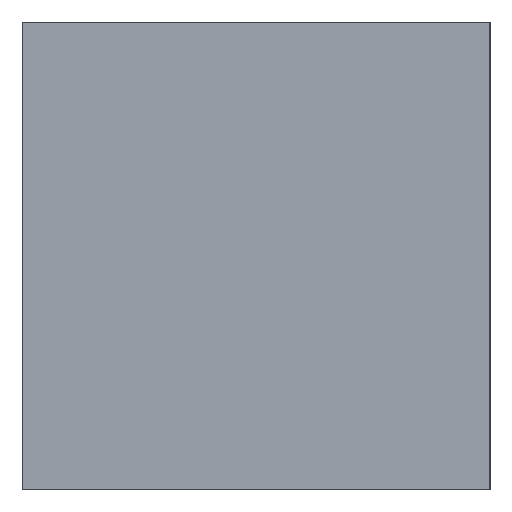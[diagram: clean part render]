
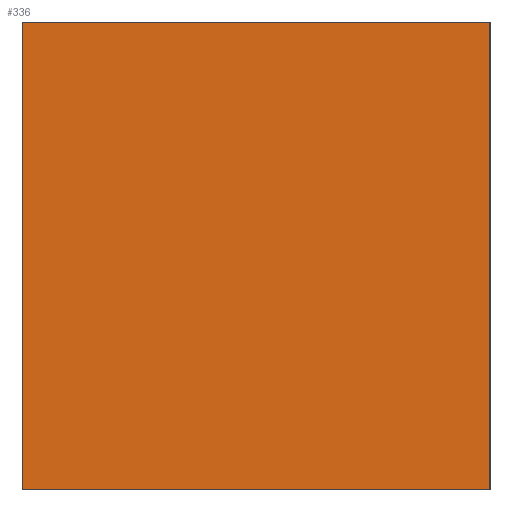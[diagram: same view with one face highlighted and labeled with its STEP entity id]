
A CAD part, front view. The second image highlights one B-rep face of the part: STEP entity #336.
In plain terms, the highlighted planar face has unit normal (0, -1, 0).
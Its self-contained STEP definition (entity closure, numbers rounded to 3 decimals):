
#217 = VERTEX_POINT('',#218);
#218 = CARTESIAN_POINT('',(-0.4,-0.8,0.8));
#235 = VERTEX_POINT('',#236);
#236 = CARTESIAN_POINT('',(-0.4,-0.8,0.));
#242 = EDGE_CURVE('',#217,#235,#243,.T.);
#243 = LINE('',#244,#245);
#244 = CARTESIAN_POINT('',(-0.4,-0.8,0.8));
#245 = VECTOR('',#246,1.);
#246 = DIRECTION('',(0.,0.,-1.));
#266 = VERTEX_POINT('',#267);
#267 = CARTESIAN_POINT('',(0.4,-0.8,0.));
#273 = EDGE_CURVE('',#235,#266,#274,.T.);
#274 = LINE('',#275,#276);
#275 = CARTESIAN_POINT('',(-0.4,-0.8,0.));
#276 = VECTOR('',#277,1.);
#277 = DIRECTION('',(1.,0.,0.));
#297 = VERTEX_POINT('',#298);
#298 = CARTESIAN_POINT('',(0.4,-0.8,0.8));
#304 = EDGE_CURVE('',#266,#297,#305,.T.);
#305 = LINE('',#306,#307);
#306 = CARTESIAN_POINT('',(0.4,-0.8,0.));
#307 = VECTOR('',#308,1.);
#308 = DIRECTION('',(0.,0.,1.));
#326 = EDGE_CURVE('',#297,#217,#327,.T.);
#327 = LINE('',#328,#329);
#328 = CARTESIAN_POINT('',(0.4,-0.8,0.8));
#329 = VECTOR('',#330,1.);
#330 = DIRECTION('',(-1.,0.,0.));
#336 = ADVANCED_FACE('',(#337),#343,.F.);
#337 = FACE_BOUND('',#338,.T.);
#338 = EDGE_LOOP('',(#339,#340,#341,#342));
#339 = ORIENTED_EDGE('',*,*,#242,.T.);
#340 = ORIENTED_EDGE('',*,*,#273,.T.);
#341 = ORIENTED_EDGE('',*,*,#304,.T.);
#342 = ORIENTED_EDGE('',*,*,#326,.T.);
#343 = PLANE('',#344);
#344 = AXIS2_PLACEMENT_3D('',#345,#346,#347);
#345 = CARTESIAN_POINT('',(0.,-0.8,0.4));
#346 = DIRECTION('',(0.,1.,0.));
#347 = DIRECTION('',(0.,0.,1.));
